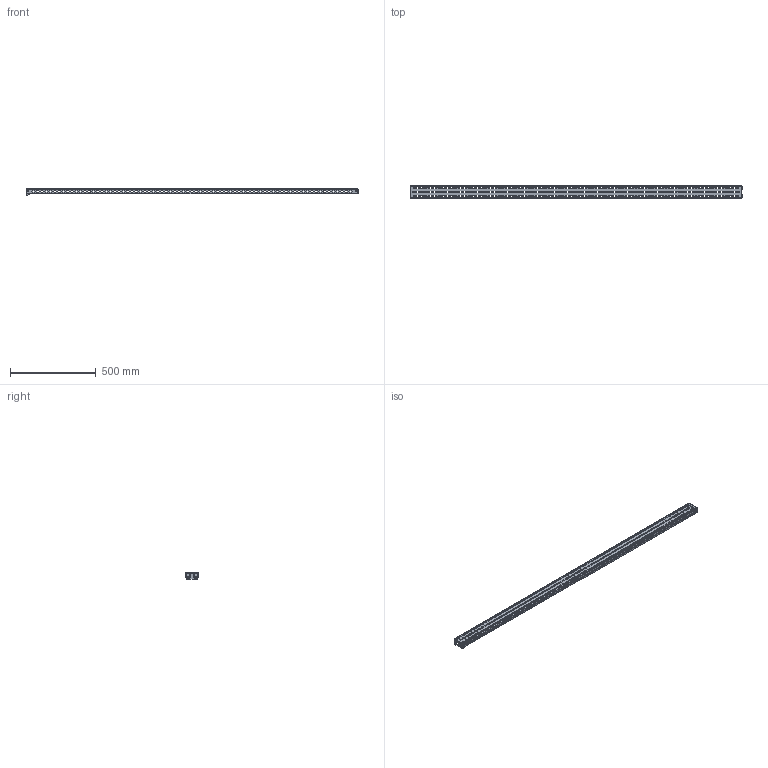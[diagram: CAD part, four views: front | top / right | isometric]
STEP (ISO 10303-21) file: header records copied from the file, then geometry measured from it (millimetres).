
FILE_DESCRIPTION(('STEP AP203'), '1');
FILE_NAME('MG 200.09 L Ðåéêà ìîíòàæíàÿ v2', '2021-05-20T08:21:19', ('UNSPECIFIED'), ('UNSPECIFIED'), 'ASCON STEP Converter 1.3', 'ASCON Math Kernel', '');
FILE_SCHEMA(('CONFIG_CONTROL_DESIGN'));
Length unit declared in the file: millimetre
Products named in the file (3): MG 200.09 L 01.001 Ðåéêà ìîíòàæíàÿ v2; MG 09 L 01.002 Êðîíøòåéí ðåéêè ìîíòàæíîé v2
Assembly tree (3 placements, depth 2):
  (unnamed)
    MG 200.09 L 01.001 Ðåéêà ìîíòàæíàÿ v2
    MG 09 L 01.002 Êðîíøòåéí ðåéêè ìîíòàæíîé v2  x2
Bounding box: 1937.45 x 74.15 x 39 mm (x, y, z)
Volume: 420908.4 mm3; surface area: 469413.5 mm2
Topology: 3 solids, 3 shells, 3566 faces, 10600 edges, 7040 vertices
Faces by surface type: cylinder 1960, plane 1598, bspline 8
Full cylindrical faces by diameter (mm): 4 x380, 4.2 x24, 6 x4, 6.5 x8
Entity records: 148948 total; most frequent: CARTESIAN_POINT 21410, DIRECTION 20870, ORIENTED_EDGE 20064, EDGE_CURVE 10032, AXIS2_PLACEMENT_3D 7350, VERTEX_POINT 6940, LINE 6170, VECTOR 6170
